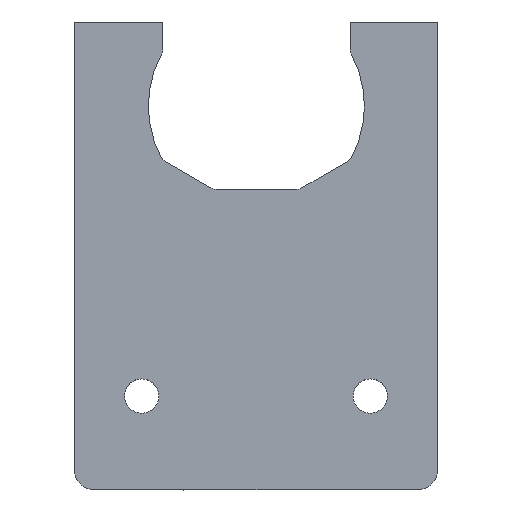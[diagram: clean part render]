
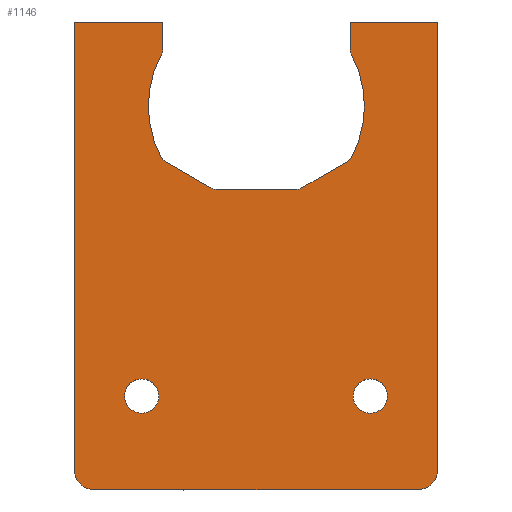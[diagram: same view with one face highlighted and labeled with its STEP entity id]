
A CAD part, top view. The second image highlights one B-rep face of the part: STEP entity #1146.
In plain terms, the highlighted planar face has unit normal (0, 0, 1).
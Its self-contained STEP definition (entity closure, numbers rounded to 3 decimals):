
#43=FACE_BOUND('',#236,.T.);
#44=FACE_BOUND('',#237,.T.);
#85=CIRCLE('',#1232,1.);
#86=CIRCLE('',#1234,10.4);
#87=CIRCLE('',#1236,1.);
#88=CIRCLE('',#1239,1.);
#89=CIRCLE('',#1242,1.);
#90=CIRCLE('',#1245,1.);
#91=CIRCLE('',#1247,10.4);
#92=CIRCLE('',#1249,1.);
#99=CIRCLE('',#1259,2.);
#100=CIRCLE('',#1260,2.);
#101=CIRCLE('',#1261,1.65);
#102=CIRCLE('',#1262,1.65);
#168=FACE_OUTER_BOUND('',#235,.T.);
#235=EDGE_LOOP('',(#882,#883,#884,#885,#886,#887,#888,#889,#890,#891,#892,
#893,#894,#895,#896,#897,#898,#899,#900,#901));
#236=EDGE_LOOP('',(#902));
#237=EDGE_LOOP('',(#903));
#306=LINE('',#1771,#403);
#312=LINE('',#1788,#409);
#315=LINE('',#1796,#412);
#318=LINE('',#1804,#415);
#323=LINE('',#1820,#420);
#337=LINE('',#1861,#434);
#338=LINE('',#1863,#435);
#339=LINE('',#1867,#436);
#340=LINE('',#1871,#437);
#341=LINE('',#1872,#438);
#403=VECTOR('',#1418,10.);
#409=VECTOR('',#1438,10.);
#412=VECTOR('',#1447,10.);
#415=VECTOR('',#1456,10.);
#420=VECTOR('',#1475,10.);
#434=VECTOR('',#1505,10.);
#435=VECTOR('',#1506,10.);
#436=VECTOR('',#1509,10.);
#437=VECTOR('',#1512,10.);
#438=VECTOR('',#1513,10.);
#501=VERTEX_POINT('',#1768);
#502=VERTEX_POINT('',#1770);
#503=VERTEX_POINT('',#1774);
#504=VERTEX_POINT('',#1778);
#505=VERTEX_POINT('',#1782);
#506=VERTEX_POINT('',#1786);
#507=VERTEX_POINT('',#1790);
#508=VERTEX_POINT('',#1794);
#509=VERTEX_POINT('',#1798);
#510=VERTEX_POINT('',#1802);
#511=VERTEX_POINT('',#1806);
#512=VERTEX_POINT('',#1810);
#513=VERTEX_POINT('',#1814);
#514=VERTEX_POINT('',#1818);
#533=VERTEX_POINT('',#1860);
#534=VERTEX_POINT('',#1862);
#535=VERTEX_POINT('',#1864);
#536=VERTEX_POINT('',#1866);
#537=VERTEX_POINT('',#1868);
#538=VERTEX_POINT('',#1870);
#539=VERTEX_POINT('',#1873);
#540=VERTEX_POINT('',#1875);
#620=EDGE_CURVE('',#502,#501,#306,.T.);
#623=EDGE_CURVE('',#503,#501,#85,.T.);
#625=EDGE_CURVE('',#503,#504,#86,.T.);
#627=EDGE_CURVE('',#505,#504,#87,.T.);
#629=EDGE_CURVE('',#505,#506,#312,.T.);
#631=EDGE_CURVE('',#507,#506,#88,.T.);
#633=EDGE_CURVE('',#507,#508,#315,.T.);
#635=EDGE_CURVE('',#509,#508,#89,.T.);
#637=EDGE_CURVE('',#509,#510,#318,.T.);
#639=EDGE_CURVE('',#511,#510,#90,.T.);
#641=EDGE_CURVE('',#511,#512,#91,.T.);
#643=EDGE_CURVE('',#513,#512,#92,.T.);
#645=EDGE_CURVE('',#513,#514,#323,.T.);
#665=EDGE_CURVE('',#514,#533,#337,.T.);
#666=EDGE_CURVE('',#533,#534,#338,.F.);
#667=EDGE_CURVE('',#535,#534,#99,.T.);
#668=EDGE_CURVE('',#535,#536,#339,.T.);
#669=EDGE_CURVE('',#537,#536,#100,.T.);
#670=EDGE_CURVE('',#537,#538,#340,.F.);
#671=EDGE_CURVE('',#538,#502,#341,.T.);
#672=EDGE_CURVE('',#539,#539,#101,.T.);
#673=EDGE_CURVE('',#540,#540,#102,.T.);
#882=ORIENTED_EDGE('',*,*,#643,.F.);
#883=ORIENTED_EDGE('',*,*,#645,.T.);
#884=ORIENTED_EDGE('',*,*,#665,.T.);
#885=ORIENTED_EDGE('',*,*,#666,.T.);
#886=ORIENTED_EDGE('',*,*,#667,.F.);
#887=ORIENTED_EDGE('',*,*,#668,.T.);
#888=ORIENTED_EDGE('',*,*,#669,.F.);
#889=ORIENTED_EDGE('',*,*,#670,.T.);
#890=ORIENTED_EDGE('',*,*,#671,.T.);
#891=ORIENTED_EDGE('',*,*,#620,.T.);
#892=ORIENTED_EDGE('',*,*,#623,.F.);
#893=ORIENTED_EDGE('',*,*,#625,.T.);
#894=ORIENTED_EDGE('',*,*,#627,.F.);
#895=ORIENTED_EDGE('',*,*,#629,.T.);
#896=ORIENTED_EDGE('',*,*,#631,.F.);
#897=ORIENTED_EDGE('',*,*,#633,.T.);
#898=ORIENTED_EDGE('',*,*,#635,.F.);
#899=ORIENTED_EDGE('',*,*,#637,.T.);
#900=ORIENTED_EDGE('',*,*,#639,.F.);
#901=ORIENTED_EDGE('',*,*,#641,.T.);
#902=ORIENTED_EDGE('',*,*,#672,.T.);
#903=ORIENTED_EDGE('',*,*,#673,.T.);
#1099=PLANE('',#1258);
#1146=ADVANCED_FACE('',(#168,#43,#44),#1099,.T.);
#1232=AXIS2_PLACEMENT_3D('',#1776,#1423,#1424);
#1234=AXIS2_PLACEMENT_3D('',#1780,#1428,#1429);
#1236=AXIS2_PLACEMENT_3D('',#1784,#1433,#1434);
#1239=AXIS2_PLACEMENT_3D('',#1792,#1442,#1443);
#1242=AXIS2_PLACEMENT_3D('',#1800,#1451,#1452);
#1245=AXIS2_PLACEMENT_3D('',#1808,#1460,#1461);
#1247=AXIS2_PLACEMENT_3D('',#1812,#1465,#1466);
#1249=AXIS2_PLACEMENT_3D('',#1816,#1470,#1471);
#1258=AXIS2_PLACEMENT_3D('',#1859,#1503,#1504);
#1259=AXIS2_PLACEMENT_3D('',#1865,#1507,#1508);
#1260=AXIS2_PLACEMENT_3D('',#1869,#1510,#1511);
#1261=AXIS2_PLACEMENT_3D('',#1874,#1514,#1515);
#1262=AXIS2_PLACEMENT_3D('',#1876,#1516,#1517);
#1418=DIRECTION('',(0.,-1.,0.));
#1423=DIRECTION('center_axis',(0.,0.,
-1.));
#1424=DIRECTION('ref_axis',(-0.969,-0.247,0.));
#1428=DIRECTION('center_axis',(0.,0.,
-1.));
#1429=DIRECTION('ref_axis',(0.867,-0.499,0.));
#1433=DIRECTION('center_axis',(0.,0.,
1.));
#1434=DIRECTION('ref_axis',(0.717,-0.697,0.));
#1438=DIRECTION('',(-0.866,-0.5,0.));
#1442=DIRECTION('center_axis',(0.,0.,
1.));
#1443=DIRECTION('ref_axis',(0.259,-0.966,0.));
#1447=DIRECTION('',(-1.,0.,0.));
#1451=DIRECTION('center_axis',(0.,0.,
1.));
#1452=DIRECTION('ref_axis',(-0.259,-0.966,0.));
#1456=DIRECTION('',(-0.866,0.5,0.));
#1460=DIRECTION('center_axis',(0.,0.,
1.));
#1461=DIRECTION('ref_axis',(-0.717,-0.697,0.));
#1465=DIRECTION('center_axis',(0.,0.,
-1.));
#1466=DIRECTION('ref_axis',(-0.867,0.499,0.));
#1470=DIRECTION('center_axis',(0.,0.,
-1.));
#1471=DIRECTION('ref_axis',(0.969,-0.247,0.));
#1475=DIRECTION('',(0.,1.,0.));
#1503=DIRECTION('center_axis',(0.,0.,
1.));
#1504=DIRECTION('ref_axis',(-1.,0.,0.));
#1505=DIRECTION('',(-1.,0.,0.));
#1506=DIRECTION('',(0.,1.,0.));
#1507=DIRECTION('center_axis',(0.,0.,
-1.));
#1508=DIRECTION('ref_axis',(-0.707,-0.707,0.));
#1509=DIRECTION('',(1.,0.,0.));
#1510=DIRECTION('center_axis',(0.,0.,
-1.));
#1511=DIRECTION('ref_axis',(0.707,-0.707,0.));
#1512=DIRECTION('',(0.,-1.,0.));
#1513=DIRECTION('',(-1.,0.,0.));
#1514=DIRECTION('center_axis',(0.,0.,
-1.));
#1515=DIRECTION('ref_axis',(-1.,0.,0.));
#1516=DIRECTION('center_axis',(0.,0.,
-1.));
#1517=DIRECTION('ref_axis',(-1.,0.,0.));
#1768=CARTESIAN_POINT('',(-10.951,-13.851,-1.65));
#1770=CARTESIAN_POINT('',(-10.951,-11.2,-1.65));
#1771=CARTESIAN_POINT('',(-10.951,-22.457,-1.65));
#1774=CARTESIAN_POINT('',(-10.829,-14.329,-1.65));
#1776=CARTESIAN_POINT('Origin',(-9.951,-13.851,-1.65));
#1778=CARTESIAN_POINT('',(-10.81,-24.235,-1.65));
#1780=CARTESIAN_POINT('Origin',(-19.964,-19.3,-1.65));
#1782=CARTESIAN_POINT('',(-11.19,-24.626,-1.65));
#1784=CARTESIAN_POINT('Origin',(-11.69,-23.76,-1.65));
#1786=CARTESIAN_POINT('',(-15.589,-27.166,-1.65));
#1788=CARTESIAN_POINT('',(-16.342,-27.601,-1.65));
#1790=CARTESIAN_POINT('',(-16.089,-27.3,-1.65));
#1792=CARTESIAN_POINT('Origin',(-16.089,-26.3,-1.65));
#1794=CARTESIAN_POINT('',(-23.84,-27.3,-1.65));
#1796=CARTESIAN_POINT('',(-17.91,-27.3,-1.65));
#1798=CARTESIAN_POINT('',(-24.34,-27.166,-1.65));
#1800=CARTESIAN_POINT('Origin',(-23.84,-26.3,-1.65));
#1802=CARTESIAN_POINT('',(-28.739,-24.626,-1.65));
#1804=CARTESIAN_POINT('',(-21.179,-28.991,-1.65));
#1806=CARTESIAN_POINT('',(-29.119,-24.235,-1.65));
#1808=CARTESIAN_POINT('Origin',(-28.239,-23.76,-1.65));
#1810=CARTESIAN_POINT('',(-29.099,-14.329,-1.65));
#1812=CARTESIAN_POINT('Origin',(-19.964,-19.3,-1.65));
#1814=CARTESIAN_POINT('',(-28.978,-13.851,-1.65));
#1816=CARTESIAN_POINT('Origin',(-29.978,-13.851,-1.65));
#1818=CARTESIAN_POINT('',(-28.978,-11.2,-1.65));
#1820=CARTESIAN_POINT('',(-28.978,-23.913,-1.65));
#1859=CARTESIAN_POINT('Origin',(-20.,-33.714,-1.65));
#1860=CARTESIAN_POINT('',(-37.5,-11.2,-1.65));
#1861=CARTESIAN_POINT('',(-9.712,-11.2,-1.65));
#1862=CARTESIAN_POINT('',(-37.5,-54.227,-1.65));
#1863=CARTESIAN_POINT('',(-37.5,-43.971,-1.65));
#1864=CARTESIAN_POINT('',(-35.5,-56.227,-1.65));
#1865=CARTESIAN_POINT('Origin',(-35.5,-54.227,-1.65));
#1866=CARTESIAN_POINT('',(-4.5,-56.227,-1.65));
#1867=CARTESIAN_POINT('',(-33.5,-56.227,-1.65));
#1868=CARTESIAN_POINT('',(-2.5,-54.227,-1.65));
#1869=CARTESIAN_POINT('Origin',(-4.5,-54.227,-1.65));
#1870=CARTESIAN_POINT('',(-2.5,-11.2,-1.65));
#1871=CARTESIAN_POINT('',(-2.5,-22.457,-1.65));
#1872=CARTESIAN_POINT('',(-9.712,-11.2,-1.65));
#1873=CARTESIAN_POINT('',(-29.35,-47.2,-1.65));
#1874=CARTESIAN_POINT('Origin',(-31.,-47.2,-1.65));
#1875=CARTESIAN_POINT('',(-7.35,-47.2,-1.65));
#1876=CARTESIAN_POINT('Origin',(-9.,-47.2,-1.65));
